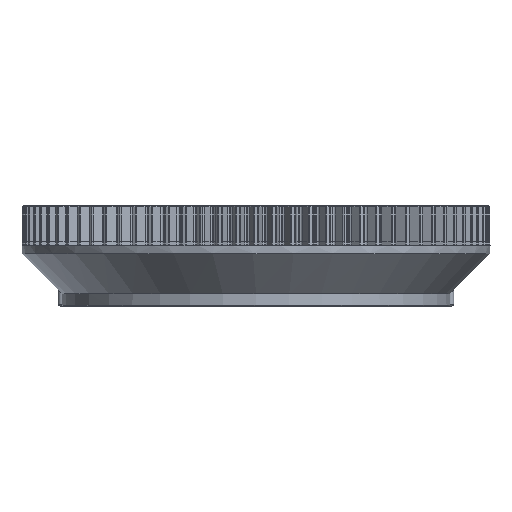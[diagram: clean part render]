
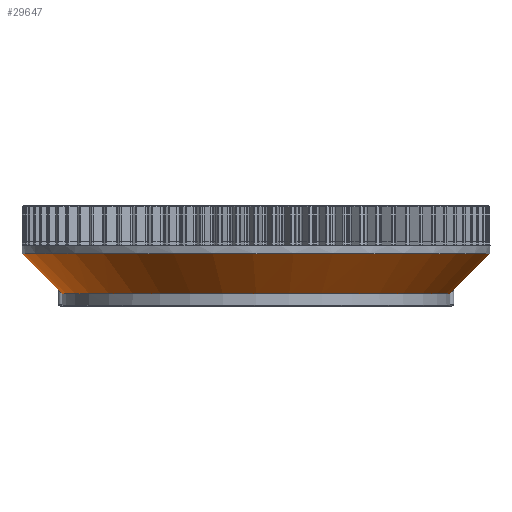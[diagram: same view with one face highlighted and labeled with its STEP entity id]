
A CAD part, left-side view. The second image highlights one B-rep face of the part: STEP entity #29647.
In plain terms, the highlighted conical face has half-angle 45 degrees and reference radius 61.55 mm.
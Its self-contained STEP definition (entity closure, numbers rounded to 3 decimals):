
#435=CONICAL_SURFACE('',#32187,61.55,0.785);
#1082=B_SPLINE_CURVE_WITH_KNOTS('',3,(#86251,#86252,#86253,#86254,#86255,
#86256,#86257,#86258,#86259,#86260,#86261,#86262,#86263,#86264,#86265,#86266,
#86267,#86268,#86269,#86270,#86271,#86272),.UNSPECIFIED.,.F.,.U.,(4,2,2,
2,2,2,2,2,2,2,4),(0.,0.51,1.019,1.438,
1.647,1.857,2.066,2.276,2.695,
3.204,3.714),.UNSPECIFIED.);
#1083=B_SPLINE_CURVE_WITH_KNOTS('',3,(#86280,#86281,#86282,#86283,#86284,
#86285,#86286,#86287,#86288,#86289,#86290,#86291,#86292,#86293,#86294,#86295,
#86296,#86297,#86298,#86299,#86300,#86301),.UNSPECIFIED.,.F.,.U.,(4,2,2,
2,2,2,2,2,2,2,4),(0.,0.51,1.019,1.438,
1.647,1.857,2.066,2.276,2.695,
3.204,3.714),.UNSPECIFIED.);
#2725=CIRCLE('',#32117,51.);
#2750=CIRCLE('',#32188,61.55);
#5894=VERTEX_POINT('',#86250);
#5895=VERTEX_POINT('',#86273);
#5896=VERTEX_POINT('',#86277);
#5897=VERTEX_POINT('',#86302);
#5952=VERTEX_POINT('',#86584);
#15236=EDGE_CURVE('',#5895,#5894,#1082,.T.);
#15238=EDGE_CURVE('',#5896,#5895,#2725,.T.);
#15240=EDGE_CURVE('',#5897,#5896,#1083,.T.);
#15328=EDGE_CURVE('',#5894,#5897,#2725,.T.);
#15329=EDGE_CURVE('',#5952,#5952,#2750,.T.);
#24007=ORIENTED_EDGE('',*,*,#15236,.T.);
#24008=ORIENTED_EDGE('',*,*,#15328,.T.);
#24009=ORIENTED_EDGE('',*,*,#15240,.T.);
#24010=ORIENTED_EDGE('',*,*,#15238,.T.);
#24011=ORIENTED_EDGE('',*,*,#15329,.F.);
#25906=EDGE_LOOP('',(#24007,#24008,#24009,#24010));
#25907=EDGE_LOOP('',(#24011));
#27794=FACE_BOUND('',#25906,.T.);
#27795=FACE_BOUND('',#25907,.T.);
#29647=ADVANCED_FACE('',(#27794,#27795),#435,.T.);
#32117=AXIS2_PLACEMENT_3D('',#86276,#39238,#39239);
#32187=AXIS2_PLACEMENT_3D('',#86582,#39397,#39398);
#32188=AXIS2_PLACEMENT_3D('',#86583,#39399,#39400);
#39238=DIRECTION('',(0.,0.,1.));
#39239=DIRECTION('',(-51.,0.,0.));
#39397=DIRECTION('',(0.,0.,1.));
#39398=DIRECTION('',(-61.55,0.,0.));
#39399=DIRECTION('',(0.,0.,1.));
#39400=DIRECTION('',(61.55,0.,0.));
#86250=CARTESIAN_POINT('',(1.,-50.99,3.35));
#86251=CARTESIAN_POINT('',(-1.,-50.98,3.34));
#86252=CARTESIAN_POINT('',(-1.002,-51.1,3.46));
#86253=CARTESIAN_POINT('',(-0.982,-51.231,3.591));
#86254=CARTESIAN_POINT('',(-0.887,-51.482,3.839));
#86255=CARTESIAN_POINT('',(-0.811,-51.601,3.957));
#86256=CARTESIAN_POINT('',(-0.634,-51.782,4.135));
#86257=CARTESIAN_POINT('',(-0.528,-51.86,4.212));
#86258=CARTESIAN_POINT('',(-0.343,-51.942,4.293));
#86259=CARTESIAN_POINT('',(-0.277,-51.963,4.314));
#86260=CARTESIAN_POINT('',(-0.14,-51.993,4.343));
#86261=CARTESIAN_POINT('',(-0.07,-52.,4.35));
#86262=CARTESIAN_POINT('',(0.07,-52.,4.35));
#86263=CARTESIAN_POINT('',(0.14,-51.993,4.343));
#86264=CARTESIAN_POINT('',(0.277,-51.963,4.314));
#86265=CARTESIAN_POINT('',(0.343,-51.942,4.293));
#86266=CARTESIAN_POINT('',(0.528,-51.86,4.212));
#86267=CARTESIAN_POINT('',(0.634,-51.782,4.135));
#86268=CARTESIAN_POINT('',(0.811,-51.601,3.957));
#86269=CARTESIAN_POINT('',(0.887,-51.482,3.839));
#86270=CARTESIAN_POINT('',(0.982,-51.231,3.591));
#86271=CARTESIAN_POINT('',(1.002,-51.1,3.46));
#86272=CARTESIAN_POINT('',(1.,-50.98,3.34));
#86273=CARTESIAN_POINT('',(-1.,-50.99,3.35));
#86276=CARTESIAN_POINT('',(0.,0.,3.35));
#86277=CARTESIAN_POINT('',(-1.,50.99,3.35));
#86280=CARTESIAN_POINT('',(1.,50.98,3.34));
#86281=CARTESIAN_POINT('',(1.002,51.1,3.46));
#86282=CARTESIAN_POINT('',(0.982,51.231,3.591));
#86283=CARTESIAN_POINT('',(0.887,51.482,3.839));
#86284=CARTESIAN_POINT('',(0.811,51.601,3.957));
#86285=CARTESIAN_POINT('',(0.634,51.782,4.135));
#86286=CARTESIAN_POINT('',(0.528,51.86,4.212));
#86287=CARTESIAN_POINT('',(0.343,51.942,4.293));
#86288=CARTESIAN_POINT('',(0.277,51.963,4.314));
#86289=CARTESIAN_POINT('',(0.14,51.993,4.343));
#86290=CARTESIAN_POINT('',(0.07,52.,4.35));
#86291=CARTESIAN_POINT('',(-0.07,52.,4.35));
#86292=CARTESIAN_POINT('',(-0.14,51.993,4.343));
#86293=CARTESIAN_POINT('',(-0.277,51.963,4.314));
#86294=CARTESIAN_POINT('',(-0.343,51.942,4.293));
#86295=CARTESIAN_POINT('',(-0.528,51.86,4.212));
#86296=CARTESIAN_POINT('',(-0.634,51.782,4.135));
#86297=CARTESIAN_POINT('',(-0.811,51.601,3.957));
#86298=CARTESIAN_POINT('',(-0.887,51.482,3.839));
#86299=CARTESIAN_POINT('',(-0.982,51.231,3.591));
#86300=CARTESIAN_POINT('',(-1.002,51.1,3.46));
#86301=CARTESIAN_POINT('',(-1.,50.98,3.34));
#86302=CARTESIAN_POINT('',(1.,50.99,3.35));
#86582=CARTESIAN_POINT('',(0.,0.,13.9));
#86583=CARTESIAN_POINT('',(0.,0.,13.9));
#86584=CARTESIAN_POINT('',(61.55,0.,13.9));
